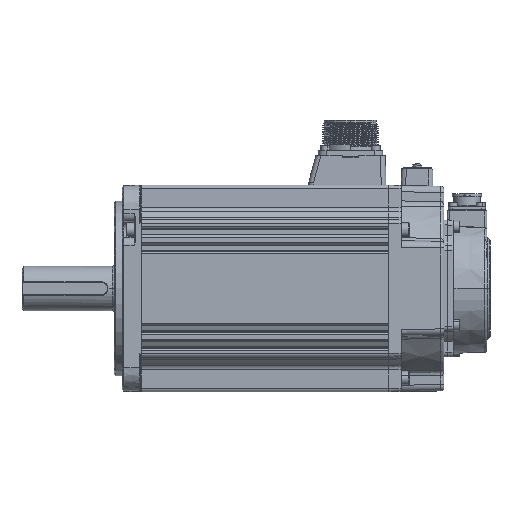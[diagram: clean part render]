
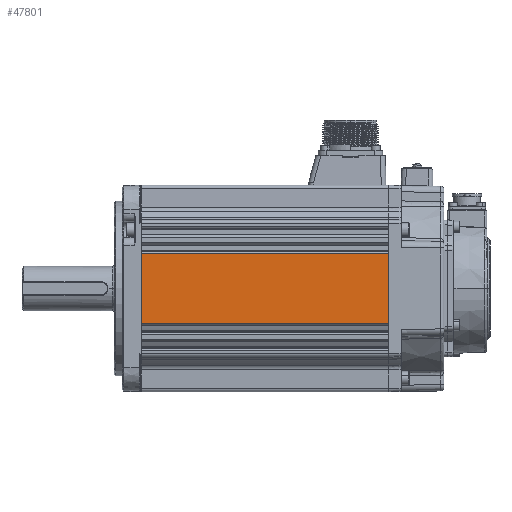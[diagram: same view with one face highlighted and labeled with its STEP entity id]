
A CAD part, top view. The second image highlights one B-rep face of the part: STEP entity #47801.
In plain terms, the highlighted planar face has unit normal (0, 0, 1).
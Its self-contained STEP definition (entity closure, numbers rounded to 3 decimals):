
#6283 = DIRECTION ( 'NONE',  ( 1., 0., 0. ) ) ;
#7954 = CARTESIAN_POINT ( 'NONE',  ( 77.9, -43., 65. ) ) ;
#14423 = VERTEX_POINT ( 'NONE', #25241 ) ;
#17306 = CARTESIAN_POINT ( 'NONE',  ( 77.9, 22., 65. ) ) ;
#17664 = DIRECTION ( 'NONE',  ( -1., 0., 0. ) ) ;
#21094 = EDGE_CURVE ( 'NONE', #78408, #14423, #48517, .T. ) ;
#22035 = DIRECTION ( 'NONE',  ( -1., 0., 0. ) ) ;
#23509 = ORIENTED_EDGE ( 'NONE', *, *, #104375, .T. ) ;
#25241 = CARTESIAN_POINT ( 'NONE',  ( -77.9, 22., 65. ) ) ;
#25898 = PLANE ( 'NONE',  #74179 ) ;
#27967 = ORIENTED_EDGE ( 'NONE', *, *, #112814, .F. ) ;
#30353 = VECTOR ( 'NONE', #97448, 1000. ) ;
#34510 = CARTESIAN_POINT ( 'NONE',  ( 78.4, -22., 65. ) ) ;
#35030 = LINE ( 'NONE', #7954, #30353 ) ;
#36160 = CARTESIAN_POINT ( 'NONE',  ( -77.9, -43., 65. ) ) ;
#40864 = VERTEX_POINT ( 'NONE', #72264 ) ;
#47801 = ADVANCED_FACE ( 'NONE', ( #105388 ), #25898, .F. ) ;
#48271 = VECTOR ( 'NONE', #22035, 1000. ) ;
#48517 = LINE ( 'NONE', #59670, #48271 ) ;
#51252 = VECTOR ( 'NONE', #79764, 1000. ) ;
#51584 = LINE ( 'NONE', #34510, #87864 ) ;
#59670 = CARTESIAN_POINT ( 'NONE',  ( 78.4, 22., 65. ) ) ;
#60632 = ORIENTED_EDGE ( 'NONE', *, *, #21094, .T. ) ;
#67955 = CARTESIAN_POINT ( 'NONE',  ( -77.9, -22., 65. ) ) ;
#72264 = CARTESIAN_POINT ( 'NONE',  ( 77.9, -22., 65. ) ) ;
#74179 = AXIS2_PLACEMENT_3D ( 'NONE', #97153, #78910, #17664 ) ;
#78408 = VERTEX_POINT ( 'NONE', #17306 ) ;
#78910 = DIRECTION ( 'NONE',  ( 0., 0., -1. ) ) ;
#79764 = DIRECTION ( 'NONE',  ( 0., 1., 0. ) ) ;
#82288 = EDGE_LOOP ( 'NONE', ( #27967, #60632, #91545, #23509 ) ) ;
#87864 = VECTOR ( 'NONE', #6283, 1000. ) ;
#91081 = VERTEX_POINT ( 'NONE', #67955 ) ;
#91545 = ORIENTED_EDGE ( 'NONE', *, *, #112757, .F. ) ;
#97153 = CARTESIAN_POINT ( 'NONE',  ( 78.4, -43., 65. ) ) ;
#97448 = DIRECTION ( 'NONE',  ( 0., -1., 0. ) ) ;
#104375 = EDGE_CURVE ( 'NONE', #91081, #40864, #51584, .T. ) ;
#105388 = FACE_OUTER_BOUND ( 'NONE', #82288, .T. ) ;
#105668 = LINE ( 'NONE', #36160, #51252 ) ;
#112757 = EDGE_CURVE ( 'NONE', #91081, #14423, #105668, .T. ) ;
#112814 = EDGE_CURVE ( 'NONE', #78408, #40864, #35030, .T. ) ;
